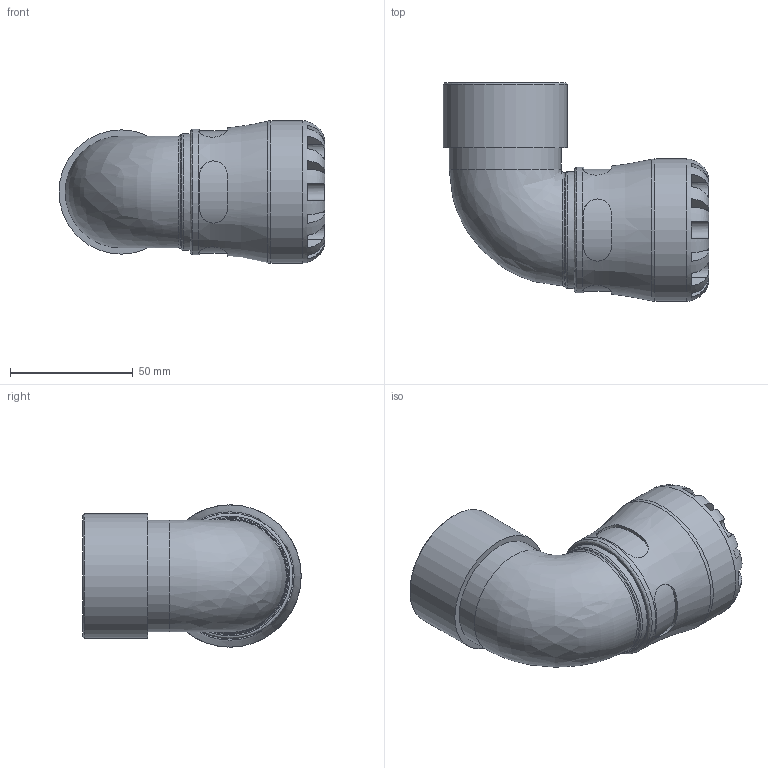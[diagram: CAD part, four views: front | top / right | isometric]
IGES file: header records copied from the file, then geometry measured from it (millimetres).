
Global section: file name: 101500032013_191500032013.ipt; native system: Autodesk Inventor 2015; preprocessor: unknown; author: KIM; date: 20170730.115220; units: millimetre
Bounding box: 108.32 x 89 x 58 mm (x, y, z)
Volume: 137403.7 mm3; surface area: 40021.1 mm2
Topology: 1 solids, 1 shells, 111 faces, 284 edges, 180 vertices
Faces by surface type: plane 62, revolution 26, cylinder 17, bspline 5, cone 1
Full cylindrical faces by diameter (mm): 45.574 x1, 47.56 x1, 50.638 x1, 51.04 x1, 58 x1
